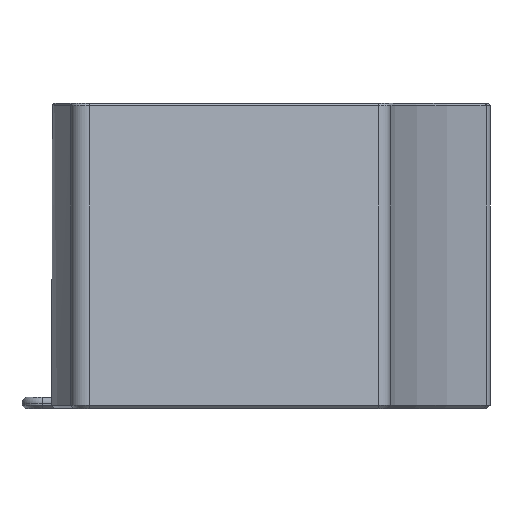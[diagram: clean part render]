
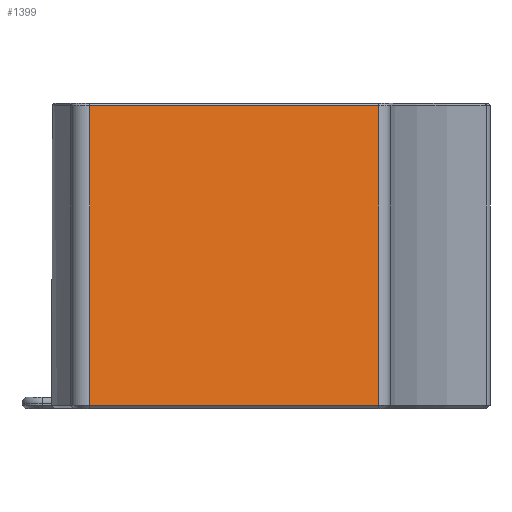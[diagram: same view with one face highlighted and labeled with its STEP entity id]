
A CAD part, left-side view. The second image highlights one B-rep face of the part: STEP entity #1399.
In plain terms, the highlighted planar face has unit normal (-0.966, -0.259, 0).
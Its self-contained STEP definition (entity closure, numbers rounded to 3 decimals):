
#101 = CYLINDRICAL_SURFACE('',#102,2.);
#102 = AXIS2_PLACEMENT_3D('',#103,#104,#105);
#103 = CARTESIAN_POINT('',(-11.379,54.832,1.5));
#104 = DIRECTION('',(0.,0.,1.));
#105 = DIRECTION('',(0.203,-0.979,0.));
#399 = VERTEX_POINT('',#400);
#400 = CARTESIAN_POINT('',(-13.311,54.314,1.9));
#422 = EDGE_CURVE('',#399,#423,#425,.T.);
#423 = VERTEX_POINT('',#424);
#424 = CARTESIAN_POINT('',(-13.311,54.314,41.));
#425 = SURFACE_CURVE('',#426,(#430,#437),.PCURVE_S1.);
#426 = LINE('',#427,#428);
#427 = CARTESIAN_POINT('',(-13.311,54.314,1.5));
#428 = VECTOR('',#429,1.);
#429 = DIRECTION('',(0.,0.,1.));
#430 = PCURVE('',#101,#431);
#431 = DEFINITIONAL_REPRESENTATION('',(#432),#436);
#432 = LINE('',#433,#434);
#433 = CARTESIAN_POINT('',(-1.514,0.));
#434 = VECTOR('',#435,1.);
#435 = DIRECTION('',(0.,1.));
#436 = ( GEOMETRIC_REPRESENTATION_CONTEXT(2) 
PARAMETRIC_REPRESENTATION_CONTEXT() REPRESENTATION_CONTEXT('2D SPACE',''
  ) );
#437 = PCURVE('',#438,#443);
#438 = PLANE('',#439);
#439 = AXIS2_PLACEMENT_3D('',#440,#441,#442);
#440 = CARTESIAN_POINT('',(-12.814,52.458,1.5));
#441 = DIRECTION('',(-0.966,-0.259,0.));
#442 = DIRECTION('',(-0.259,0.966,0.));
#443 = DEFINITIONAL_REPRESENTATION('',(#444),#448);
#444 = LINE('',#445,#446);
#445 = CARTESIAN_POINT('',(1.922,0.));
#446 = VECTOR('',#447,1.);
#447 = DIRECTION('',(0.,-1.));
#448 = ( GEOMETRIC_REPRESENTATION_CONTEXT(2) 
PARAMETRIC_REPRESENTATION_CONTEXT() REPRESENTATION_CONTEXT('2D SPACE',''
  ) );
#700 = PLANE('',#701);
#701 = AXIS2_PLACEMENT_3D('',#702,#703,#704);
#702 = CARTESIAN_POINT('',(-13.118,54.366,1.7));
#703 = DIRECTION('',(-0.683,-0.183,-0.707));
#704 = DIRECTION('',(-0.259,0.966,0.));
#1001 = CYLINDRICAL_SURFACE('',#1002,0.3);
#1002 = AXIS2_PLACEMENT_3D('',#1003,#1004,#1005);
#1003 = CARTESIAN_POINT('',(-13.021,54.392,41.));
#1004 = DIRECTION('',(-0.259,0.966,0.));
#1005 = DIRECTION('',(0.,0.,1.));
#1399 = ADVANCED_FACE('',(#1400),#438,.T.);
#1400 = FACE_BOUND('',#1401,.T.);
#1401 = EDGE_LOOP('',(#1402,#1403,#1426,#1454));
#1402 = ORIENTED_EDGE('',*,*,#422,.T.);
#1403 = ORIENTED_EDGE('',*,*,#1404,.T.);
#1404 = EDGE_CURVE('',#423,#1405,#1407,.T.);
#1405 = VERTEX_POINT('',#1406);
#1406 = CARTESIAN_POINT('',(-23.415,92.021,41.));
#1407 = SURFACE_CURVE('',#1408,(#1412,#1419),.PCURVE_S1.);
#1408 = LINE('',#1409,#1410);
#1409 = CARTESIAN_POINT('',(-13.311,54.314,41.));
#1410 = VECTOR('',#1411,1.);
#1411 = DIRECTION('',(-0.259,0.966,0.));
#1412 = PCURVE('',#438,#1413);
#1413 = DEFINITIONAL_REPRESENTATION('',(#1414),#1418);
#1414 = LINE('',#1415,#1416);
#1415 = CARTESIAN_POINT('',(1.922,-39.5));
#1416 = VECTOR('',#1417,1.);
#1417 = DIRECTION('',(1.,0.));
#1418 = ( GEOMETRIC_REPRESENTATION_CONTEXT(2) 
PARAMETRIC_REPRESENTATION_CONTEXT() REPRESENTATION_CONTEXT('2D SPACE',''
  ) );
#1419 = PCURVE('',#1001,#1420);
#1420 = DEFINITIONAL_REPRESENTATION('',(#1421),#1425);
#1421 = LINE('',#1422,#1423);
#1422 = CARTESIAN_POINT('',(-1.571,0.));
#1423 = VECTOR('',#1424,1.);
#1424 = DIRECTION('',(0.,1.));
#1425 = ( GEOMETRIC_REPRESENTATION_CONTEXT(2) 
PARAMETRIC_REPRESENTATION_CONTEXT() REPRESENTATION_CONTEXT('2D SPACE',''
  ) );
#1426 = ORIENTED_EDGE('',*,*,#1427,.F.);
#1427 = EDGE_CURVE('',#1428,#1405,#1430,.T.);
#1428 = VERTEX_POINT('',#1429);
#1429 = CARTESIAN_POINT('',(-23.415,92.021,1.9));
#1430 = SURFACE_CURVE('',#1431,(#1435,#1442),.PCURVE_S1.);
#1431 = LINE('',#1432,#1433);
#1432 = CARTESIAN_POINT('',(-23.415,92.021,1.5));
#1433 = VECTOR('',#1434,1.);
#1434 = DIRECTION('',(0.,0.,1.));
#1435 = PCURVE('',#438,#1436);
#1436 = DEFINITIONAL_REPRESENTATION('',(#1437),#1441);
#1437 = LINE('',#1438,#1439);
#1438 = CARTESIAN_POINT('',(40.959,0.));
#1439 = VECTOR('',#1440,1.);
#1440 = DIRECTION('',(0.,-1.));
#1441 = ( GEOMETRIC_REPRESENTATION_CONTEXT(2) 
PARAMETRIC_REPRESENTATION_CONTEXT() REPRESENTATION_CONTEXT('2D SPACE',''
  ) );
#1442 = PCURVE('',#1443,#1448);
#1443 = CYLINDRICAL_SURFACE('',#1444,2.);
#1444 = AXIS2_PLACEMENT_3D('',#1445,#1446,#1447);
#1445 = CARTESIAN_POINT('',(-21.483,92.539,1.5));
#1446 = DIRECTION('',(0.,0.,1.));
#1447 = DIRECTION('',(-0.966,-0.259,0.));
#1448 = DEFINITIONAL_REPRESENTATION('',(#1449),#1453);
#1449 = LINE('',#1450,#1451);
#1450 = CARTESIAN_POINT('',(0.,0.));
#1451 = VECTOR('',#1452,1.);
#1452 = DIRECTION('',(0.,1.));
#1453 = ( GEOMETRIC_REPRESENTATION_CONTEXT(2) 
PARAMETRIC_REPRESENTATION_CONTEXT() REPRESENTATION_CONTEXT('2D SPACE',''
  ) );
#1454 = ORIENTED_EDGE('',*,*,#1455,.F.);
#1455 = EDGE_CURVE('',#399,#1428,#1456,.T.);
#1456 = SURFACE_CURVE('',#1457,(#1461,#1468),.PCURVE_S1.);
#1457 = LINE('',#1458,#1459);
#1458 = CARTESIAN_POINT('',(-13.311,54.314,1.9));
#1459 = VECTOR('',#1460,1.);
#1460 = DIRECTION('',(-0.259,0.966,0.));
#1461 = PCURVE('',#438,#1462);
#1462 = DEFINITIONAL_REPRESENTATION('',(#1463),#1467);
#1463 = LINE('',#1464,#1465);
#1464 = CARTESIAN_POINT('',(1.922,-0.4));
#1465 = VECTOR('',#1466,1.);
#1466 = DIRECTION('',(1.,0.));
#1467 = ( GEOMETRIC_REPRESENTATION_CONTEXT(2) 
PARAMETRIC_REPRESENTATION_CONTEXT() REPRESENTATION_CONTEXT('2D SPACE',''
  ) );
#1468 = PCURVE('',#700,#1469);
#1469 = DEFINITIONAL_REPRESENTATION('',(#1470),#1474);
#1470 = LINE('',#1471,#1472);
#1471 = CARTESIAN_POINT('',(0.,-0.283));
#1472 = VECTOR('',#1473,1.);
#1473 = DIRECTION('',(1.,0.));
#1474 = ( GEOMETRIC_REPRESENTATION_CONTEXT(2) 
PARAMETRIC_REPRESENTATION_CONTEXT() REPRESENTATION_CONTEXT('2D SPACE',''
  ) );
